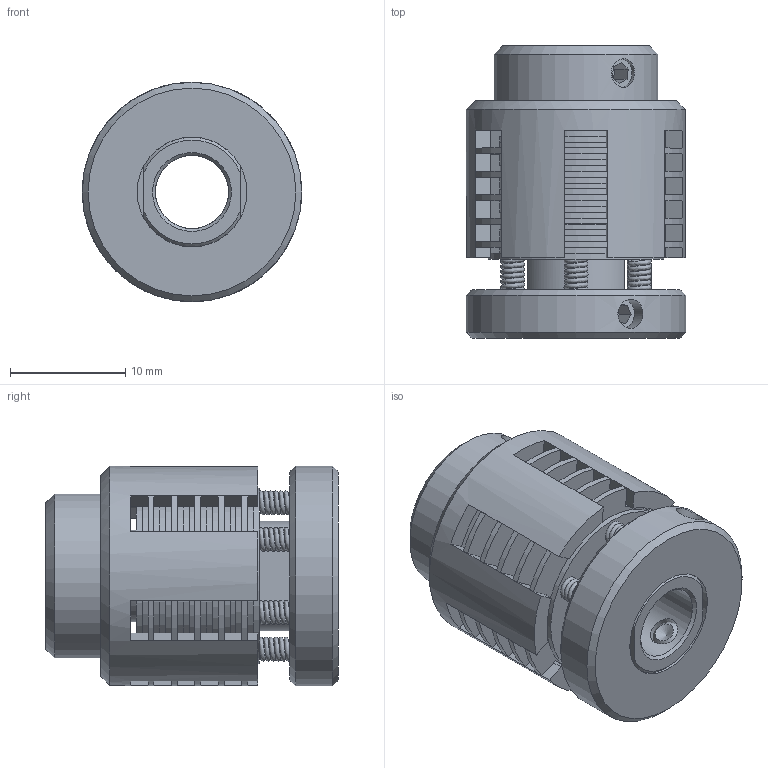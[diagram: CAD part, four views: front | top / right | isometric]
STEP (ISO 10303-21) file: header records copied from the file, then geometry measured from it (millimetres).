
FILE_DESCRIPTION((''),'2;1');
FILE_NAME('P:\Engineering\CAD DRAWINGS - 3D INVENTOR\E12\EFS12-4.stp','2013-07-29T13:29:03',('KenKra'),(''),'Autodesk Inventor 2011','Autodesk Inventor 2011','');
FILE_SCHEMA(('AUTOMOTIVE_DESIGN { 1 0 10303 214 1 1 1 1 }'));
Length unit declared in the file: inch
Products named in the file (12): EFS12-4; E1212-4; S1217-6F; S1215; S1213; S1264; S1219; S1221G; S1614-1 COMPRESSED; Type A - Hexagon Socket Set Screw - Cup Point - Inch 5-44 UNF x 0.19; S1209-4; Type B - Hexagon Socket Set Screw - Cup Point - Inch 5-40 UNC - 0.125
Assembly tree (34 placements, depth 2):
  EFS12-4
    E1212-4
    S1217-6F
    S1215  x4
    S1213  x5
    S1264
    S1219
    S1221G  x10
    S1614-1 COMPRESSED  x6
    Type A - Hexagon Socket Set Screw - Cup Point - Inch 5-44 UNF x 0.19  x2
    S1209-4
    Type B - Hexagon Socket Set Screw - Cup Point - Inch 5-40 UNC - 0.125  x2
Bounding box: 19.05 x 25.4 x 19.05 mm (x, y, z)
Volume: 4046.6 mm3; surface area: 9118.6 mm2
Topology: 34 solids, 34 shells, 873 faces, 2195 edges, 1441 vertices
Faces by surface type: plane 701, cylinder 131, cone 31, bspline 10
Full cylindrical faces by diameter (mm): 2.261 x6, 2.489 x2, 2.527 x2, 3.175 x4, 6.35 x2, 7.95 x1, 8.001 x1, 9.525 x1, 9.576 x10, 10.211 x5, 13.208 x15, 14.275 x1, 15.24 x1, 15.9 x1, 19.05 x2
Entity records: 21779 total; most frequent: CARTESIAN_POINT 5465, ORIENTED_EDGE 3300, DIRECTION 3139, EDGE_CURVE 1650, VECTOR 1151, LINE 1151, VERTEX_POINT 1113, AXIS2_PLACEMENT_3D 994
